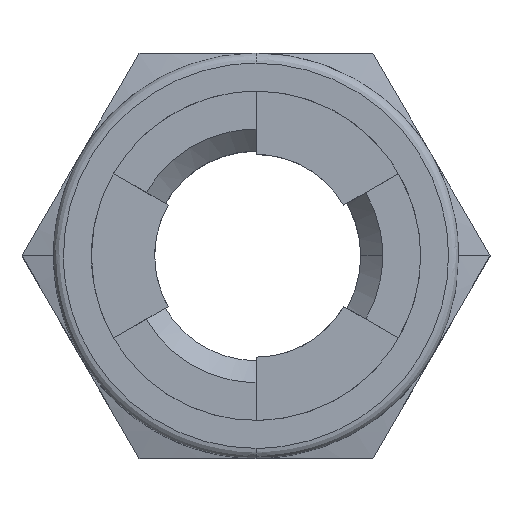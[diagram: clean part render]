
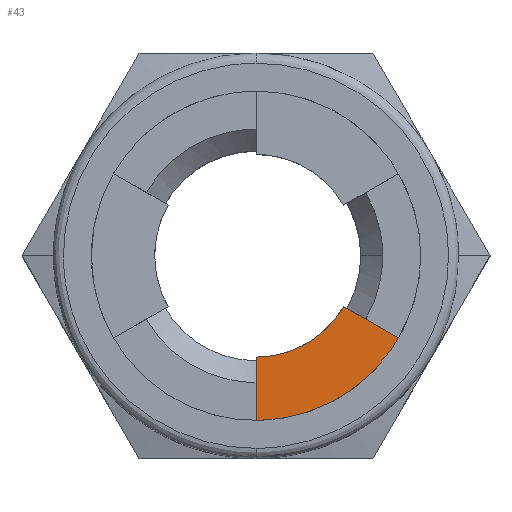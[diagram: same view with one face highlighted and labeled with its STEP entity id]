
A CAD part, top view. The second image highlights one B-rep face of the part: STEP entity #43.
In plain terms, the highlighted planar face has unit normal (0, 0, 1) as drawn and (-1, 0, 0) by its records, which use the part's own axes.
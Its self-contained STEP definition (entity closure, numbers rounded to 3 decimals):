
#43=ADVANCED_FACE('',(#97),#1704,.T.);
#97=FACE_OUTER_BOUND('',#151,.T.);
#151=EDGE_LOOP('',(#259,#260,#261,#262));
#259=ORIENTED_EDGE('',*,*,#1407,.F.);
#260=ORIENTED_EDGE('',*,*,#1406,.F.);
#261=ORIENTED_EDGE('',*,*,#1399,.F.);
#262=ORIENTED_EDGE('',*,*,#1411,.T.);
#505=PCURVE('',#1702,#765);
#513=PCURVE('',#1735,#773);
#514=PCURVE('',#1703,#774);
#519=PCURVE('',#1704,#779);
#520=PCURVE('',#1704,#780);
#521=PCURVE('',#1704,#781);
#522=PCURVE('',#1704,#782);
#704=PCURVE('',#1755,#964);
#765=DEFINITIONAL_REPRESENTATION('',(#1043),#3767);
#773=DEFINITIONAL_REPRESENTATION('',(#1056),#3767);
#774=DEFINITIONAL_REPRESENTATION('',(#1058),#3767);
#779=DEFINITIONAL_REPRESENTATION('',(#1066),#3767);
#780=DEFINITIONAL_REPRESENTATION('',(#1514),#3767);
#781=DEFINITIONAL_REPRESENTATION('',(#1067),#3767);
#782=DEFINITIONAL_REPRESENTATION('',(#1516),#3767);
#964=DEFINITIONAL_REPRESENTATION('',(#1215),#3767);
#1042=B_SPLINE_CURVE_WITH_KNOTS('',1,(#2903,#2904),.UNSPECIFIED.,.F.,.F.,
(2,2),(0.,1.25),.UNSPECIFIED.);
#1043=B_SPLINE_CURVE_WITH_KNOTS('',1,(#2905,#2906),.UNSPECIFIED.,.F.,.F.,
(2,2),(0.,1.25),.UNSPECIFIED.);
#1056=B_SPLINE_CURVE_WITH_KNOTS('',1,(#2937,#2938),.UNSPECIFIED.,.F.,.F.,
(2,2),(0.,2.094),.UNSPECIFIED.);
#1057=B_SPLINE_CURVE_WITH_KNOTS('',1,(#2939,#2940),.UNSPECIFIED.,.F.,.F.,
(2,2),(0.,1.25),.UNSPECIFIED.);
#1058=B_SPLINE_CURVE_WITH_KNOTS('',1,(#2941,#2942),.UNSPECIFIED.,.F.,.F.,
(2,2),(0.,1.25),.UNSPECIFIED.);
#1066=B_SPLINE_CURVE_WITH_KNOTS('',1,(#2957,#2958),.UNSPECIFIED.,.F.,.F.,
(2,2),(0.,1.25),.UNSPECIFIED.);
#1067=B_SPLINE_CURVE_WITH_KNOTS('',1,(#2962,#2963),.UNSPECIFIED.,.F.,.F.,
(2,2),(0.,1.25),.UNSPECIFIED.);
#1215=B_SPLINE_CURVE_WITH_KNOTS('',1,(#3740,#3741),.UNSPECIFIED.,.F.,.F.,
(2,2),(-3.403,0.),.UNSPECIFIED.);
#1269=SURFACE_CURVE('',#1042,(#505,#521),.PCURVE_S1.);
#1276=SURFACE_CURVE('',#1513,(#513,#520),.PCURVE_S1.);
#1277=SURFACE_CURVE('',#1057,(#514,#519),.PCURVE_S1.);
#1281=SURFACE_CURVE('',#1515,(#522,#704),.PCURVE_S1.);
#1399=EDGE_CURVE('',#1665,#1666,#1269,.T.);
#1406=EDGE_CURVE('',#1666,#1669,#1276,.T.);
#1407=EDGE_CURVE('',#1669,#1671,#1277,.T.);
#1411=EDGE_CURVE('',#1665,#1671,#1281,.T.);
#1513=(
BOUNDED_CURVE()
B_SPLINE_CURVE(2,(#2934,#2935,#2936),.UNSPECIFIED.,.F.,.F.)
B_SPLINE_CURVE_WITH_KNOTS((3,3),(0.,2.094),.UNSPECIFIED.)
CURVE()
GEOMETRIC_REPRESENTATION_ITEM()
RATIONAL_B_SPLINE_CURVE((1.,0.866,1.))
REPRESENTATION_ITEM('')
);
#1514=(
BOUNDED_CURVE()
B_SPLINE_CURVE(2,(#2959,#2960,#2961),.UNSPECIFIED.,.F.,.F.)
B_SPLINE_CURVE_WITH_KNOTS((3,3),(0.,2.094),.UNSPECIFIED.)
CURVE()
GEOMETRIC_REPRESENTATION_ITEM()
RATIONAL_B_SPLINE_CURVE((1.,0.866,1.))
REPRESENTATION_ITEM('')
);
#1515=(
BOUNDED_CURVE()
B_SPLINE_CURVE(2,(#2964,#2965,#2966),.UNSPECIFIED.,.F.,.F.)
B_SPLINE_CURVE_WITH_KNOTS((3,3),(-3.403,0.),.UNSPECIFIED.)
CURVE()
GEOMETRIC_REPRESENTATION_ITEM()
RATIONAL_B_SPLINE_CURVE((1.,0.866,1.))
REPRESENTATION_ITEM('')
);
#1516=(
BOUNDED_CURVE()
B_SPLINE_CURVE(2,(#2967,#2968,#2969),.UNSPECIFIED.,.F.,.F.)
B_SPLINE_CURVE_WITH_KNOTS((3,3),(-3.403,0.),.UNSPECIFIED.)
CURVE()
GEOMETRIC_REPRESENTATION_ITEM()
RATIONAL_B_SPLINE_CURVE((1.,0.866,1.))
REPRESENTATION_ITEM('')
);
#1665=VERTEX_POINT('',#2603);
#1666=VERTEX_POINT('',#2604);
#1669=VERTEX_POINT('',#2607);
#1671=VERTEX_POINT('',#2609);
#1702=PLANE('',#1797);
#1703=PLANE('',#1798);
#1704=PLANE('',#1799);
#1735=(
BOUNDED_SURFACE()
B_SPLINE_SURFACE(1,2,((#2099,#2100,#2101,#2102,#2103,#2104,#2105,#2106,#2107),
(#2108,#2109,#2110,#2111,#2112,#2113,#2114,#2115,#2116)),.UNSPECIFIED.,.F.,
 .F.,.F.)
B_SPLINE_SURFACE_WITH_KNOTS((2,2),(3,2,2,2,3),(0.,0.422),(0.,1.571,
3.142,4.712,6.283),.UNSPECIFIED.)
GEOMETRIC_REPRESENTATION_ITEM()
RATIONAL_B_SPLINE_SURFACE(((1.,0.707,1.,0.707,1.,
0.707,1.,0.707,1.),(1.,0.707,1.,0.707,
1.,0.707,1.,0.707,1.)))
REPRESENTATION_ITEM('')
SURFACE()
);
#1755=(
BOUNDED_SURFACE()
B_SPLINE_SURFACE(1,2,((#2543,#2544,#2545,#2546,#2547,#2548,#2549,#2550,#2551),
(#2552,#2553,#2554,#2555,#2556,#2557,#2558,#2559,#2560)),.UNSPECIFIED.,.F.,
 .F.,.F.)
B_SPLINE_SURFACE_WITH_KNOTS((2,2),(3,2,2,2,3),(0.,0.842),(0.,
1.571,3.142,4.712,6.283),
 .UNSPECIFIED.)
GEOMETRIC_REPRESENTATION_ITEM()
RATIONAL_B_SPLINE_SURFACE(((1.,0.707,1.,0.707,1.,
0.707,1.,0.707,1.),(1.,0.707,1.,0.707,
1.,0.707,1.,0.707,1.)))
REPRESENTATION_ITEM('')
SURFACE()
);
#1797=AXIS2_PLACEMENT_3D('',#2098,#1826,$);
#1798=AXIS2_PLACEMENT_3D('',#2117,#1827,$);
#1799=AXIS2_PLACEMENT_3D('',#2118,#1828,$);
#1826=DIRECTION('',(0.,-1.,0.));
#1827=DIRECTION('',(0.,0.5,-0.866));
#1828=DIRECTION('',(-1.,0.,0.));
#2098=CARTESIAN_POINT('',(-3.264,0.,1.874));
#2099=CARTESIAN_POINT('',(-4.286,-2.,0.));
#2100=CARTESIAN_POINT('',(-4.286,-2.,-2.));
#2101=CARTESIAN_POINT('',(-4.286,0.,-2.));
#2102=CARTESIAN_POINT('',(-4.286,2.,-2.));
#2103=CARTESIAN_POINT('',(-4.286,2.,0.));
#2104=CARTESIAN_POINT('',(-4.286,2.,2.));
#2105=CARTESIAN_POINT('',(-4.286,0.,2.));
#2106=CARTESIAN_POINT('',(-4.286,-2.,2.));
#2107=CARTESIAN_POINT('',(-4.286,-2.,0.));
#2108=CARTESIAN_POINT('',(-3.864,-2.,0.));
#2109=CARTESIAN_POINT('',(-3.864,-2.,-2.));
#2110=CARTESIAN_POINT('',(-3.864,0.,-2.));
#2111=CARTESIAN_POINT('',(-3.864,2.,-2.));
#2112=CARTESIAN_POINT('',(-3.864,2.,0.));
#2113=CARTESIAN_POINT('',(-3.864,2.,2.));
#2114=CARTESIAN_POINT('',(-3.864,0.,2.));
#2115=CARTESIAN_POINT('',(-3.864,-2.,2.));
#2116=CARTESIAN_POINT('',(-3.864,-2.,0.));
#2117=CARTESIAN_POINT('',(-3.264,2.924,1.688));
#2118=CARTESIAN_POINT('',(-4.25,3.097,0.774));
#2543=CARTESIAN_POINT('',(-4.671,0.,-3.25));
#2544=CARTESIAN_POINT('',(-4.671,3.25,-3.25));
#2545=CARTESIAN_POINT('',(-4.671,3.25,0.));
#2546=CARTESIAN_POINT('',(-4.671,3.25,3.25));
#2547=CARTESIAN_POINT('',(-4.671,0.,3.25));
#2548=CARTESIAN_POINT('',(-4.671,-3.25,3.25));
#2549=CARTESIAN_POINT('',(-4.671,-3.25,0.));
#2550=CARTESIAN_POINT('',(-4.671,-3.25,-3.25));
#2551=CARTESIAN_POINT('',(-4.671,0.,-3.25));
#2552=CARTESIAN_POINT('',(-3.829,0.,-3.25));
#2553=CARTESIAN_POINT('',(-3.829,3.25,-3.25));
#2554=CARTESIAN_POINT('',(-3.829,3.25,0.));
#2555=CARTESIAN_POINT('',(-3.829,3.25,3.25));
#2556=CARTESIAN_POINT('',(-3.829,0.,3.25));
#2557=CARTESIAN_POINT('',(-3.829,-3.25,3.25));
#2558=CARTESIAN_POINT('',(-3.829,-3.25,0.));
#2559=CARTESIAN_POINT('',(-3.829,-3.25,-3.25));
#2560=CARTESIAN_POINT('',(-3.829,0.,-3.25));
#2603=CARTESIAN_POINT('',(-4.25,0.,3.25));
#2604=CARTESIAN_POINT('',(-4.25,0.,2.));
#2607=CARTESIAN_POINT('',(-4.25,1.732,1.));
#2609=CARTESIAN_POINT('',(-4.25,2.815,1.625));
#2903=CARTESIAN_POINT('',(-4.25,0.,3.25));
#2904=CARTESIAN_POINT('',(-4.25,0.,2.));
#2905=CARTESIAN_POINT('',(0.,0.35));
#2906=CARTESIAN_POINT('',(-1.25,0.35));
#2934=CARTESIAN_POINT('',(-4.25,0.,2.));
#2935=CARTESIAN_POINT('',(-4.25,1.155,2.));
#2936=CARTESIAN_POINT('',(-4.25,1.732,1.));
#2937=CARTESIAN_POINT('',(0.036,4.712));
#2938=CARTESIAN_POINT('',(0.036,3.677));
#2939=CARTESIAN_POINT('',(-4.25,1.732,1.));
#2940=CARTESIAN_POINT('',(-4.25,2.815,1.625));
#2941=CARTESIAN_POINT('',(0.,0.35));
#2942=CARTESIAN_POINT('',(-1.25,0.35));
#2957=CARTESIAN_POINT('',(-1.732,1.));
#2958=CARTESIAN_POINT('',(-2.815,1.625));
#2959=CARTESIAN_POINT('',(0.,2.));
#2960=CARTESIAN_POINT('',(-1.155,2.));
#2961=CARTESIAN_POINT('',(-1.732,1.));
#2962=CARTESIAN_POINT('',(0.,3.25));
#2963=CARTESIAN_POINT('',(0.,2.));
#2964=CARTESIAN_POINT('',(-4.25,0.,3.25));
#2965=CARTESIAN_POINT('',(-4.25,1.876,3.25));
#2966=CARTESIAN_POINT('',(-4.25,2.815,1.625));
#2967=CARTESIAN_POINT('',(0.,3.25));
#2968=CARTESIAN_POINT('',(-1.876,3.25));
#2969=CARTESIAN_POINT('',(-2.815,1.625));
#3740=CARTESIAN_POINT('',(0.421,3.142));
#3741=CARTESIAN_POINT('',(0.421,2.107));
#3767=(
GEOMETRIC_REPRESENTATION_CONTEXT(2)
PARAMETRIC_REPRESENTATION_CONTEXT()
REPRESENTATION_CONTEXT('pspace','')
);
